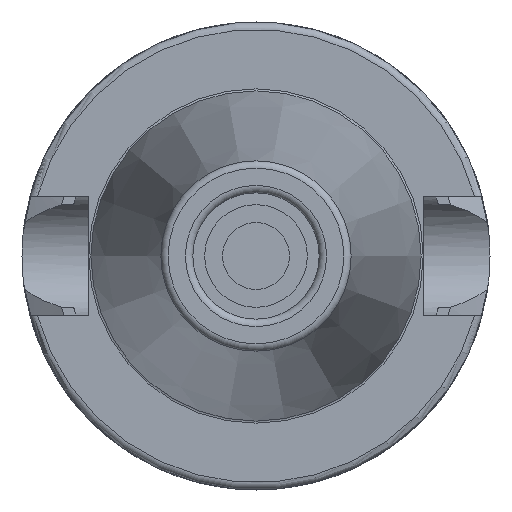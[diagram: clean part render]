
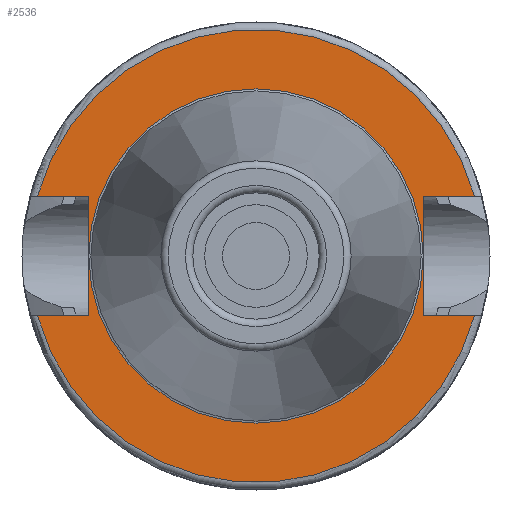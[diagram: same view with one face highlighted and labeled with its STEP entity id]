
A CAD part, left-side view. The second image highlights one B-rep face of the part: STEP entity #2536.
In plain terms, the highlighted planar face has unit normal (-1, 0, 0).
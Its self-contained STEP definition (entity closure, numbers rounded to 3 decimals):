
#128=FACE_BOUND('',#770,.T.);
#152=PLANE('',#2915);
#221=LINE('',#4158,#390);
#225=LINE('',#4208,#394);
#230=LINE('',#4220,#399);
#239=LINE('',#4325,#408);
#240=LINE('',#4327,#409);
#241=LINE('',#4328,#410);
#390=VECTOR('',#3305,10.);
#394=VECTOR('',#3315,10.);
#399=VECTOR('',#3322,10.);
#408=VECTOR('',#3389,10.);
#409=VECTOR('',#3390,10.);
#410=VECTOR('',#3391,10.);
#620=FACE_OUTER_BOUND('',#769,.T.);
#769=EDGE_LOOP('',(#1923,#1924,#1925,#1926,#1927,#1928,#1929,#1930));
#770=EDGE_LOOP('',(#1931,#1932));
#951=CIRCLE('',#2912,30.5);
#952=CIRCLE('',#2914,30.5);
#953=CIRCLE('',#2916,22.5);
#954=CIRCLE('',#2917,22.5);
#1112=VERTEX_POINT('',#4133);
#1118=VERTEX_POINT('',#4156);
#1125=VERTEX_POINT('',#4195);
#1127=VERTEX_POINT('',#4207);
#1145=VERTEX_POINT('',#4298);
#1146=VERTEX_POINT('',#4311);
#1147=VERTEX_POINT('',#4324);
#1148=VERTEX_POINT('',#4326);
#1149=VERTEX_POINT('',#4329);
#1150=VERTEX_POINT('',#4330);
#1398=EDGE_CURVE('',#1112,#1118,#221,.T.);
#1408=EDGE_CURVE('',#1127,#1125,#225,.T.);
#1414=EDGE_CURVE('',#1118,#1127,#230,.T.);
#1442=EDGE_CURVE('',#1145,#1125,#951,.T.);
#1443=EDGE_CURVE('',#1112,#1146,#952,.T.);
#1445=EDGE_CURVE('',#1145,#1147,#239,.T.);
#1446=EDGE_CURVE('',#1147,#1148,#240,.T.);
#1447=EDGE_CURVE('',#1148,#1146,#241,.T.);
#1448=EDGE_CURVE('',#1149,#1150,#953,.T.);
#1449=EDGE_CURVE('',#1150,#1149,#954,.T.);
#1923=ORIENTED_EDGE('',*,*,#1398,.T.);
#1924=ORIENTED_EDGE('',*,*,#1414,.T.);
#1925=ORIENTED_EDGE('',*,*,#1408,.T.);
#1926=ORIENTED_EDGE('',*,*,#1442,.F.);
#1927=ORIENTED_EDGE('',*,*,#1445,.T.);
#1928=ORIENTED_EDGE('',*,*,#1446,.T.);
#1929=ORIENTED_EDGE('',*,*,#1447,.T.);
#1930=ORIENTED_EDGE('',*,*,#1443,.F.);
#1931=ORIENTED_EDGE('',*,*,#1448,.T.);
#1932=ORIENTED_EDGE('',*,*,#1449,.T.);
#2536=ADVANCED_FACE('',(#620,#128),#152,.T.);
#2912=AXIS2_PLACEMENT_3D('',#4309,#3381,#3382);
#2914=AXIS2_PLACEMENT_3D('',#4312,#3385,#3386);
#2915=AXIS2_PLACEMENT_3D('',#4323,#3387,#3388);
#2916=AXIS2_PLACEMENT_3D('',#4331,#3392,#3393);
#2917=AXIS2_PLACEMENT_3D('',#4332,#3394,#3395);
#3305=DIRECTION('',(0.,1.,0.));
#3315=DIRECTION('',(0.,-1.,0.));
#3322=DIRECTION('',(0.,0.,1.));
#3381=DIRECTION('center_axis',(1.,0.,0.));
#3382=DIRECTION('ref_axis',(0.,0.,-1.));
#3385=DIRECTION('center_axis',(1.,0.,0.));
#3386=DIRECTION('ref_axis',(0.,0.,-1.));
#3387=DIRECTION('center_axis',(-1.,0.,0.));
#3388=DIRECTION('ref_axis',(0.,0.,1.));
#3389=DIRECTION('',(0.,-1.,0.));
#3390=DIRECTION('',(0.,0.,-1.));
#3391=DIRECTION('',(0.,1.,0.));
#3392=DIRECTION('center_axis',(1.,0.,0.));
#3393=DIRECTION('ref_axis',(0.,0.,-1.));
#3394=DIRECTION('center_axis',(1.,0.,0.));
#3395=DIRECTION('ref_axis',(0.,0.,-1.));
#4133=CARTESIAN_POINT('',(2.,-29.418,-8.05));
#4156=CARTESIAN_POINT('',(2.,-22.6,-8.05));
#4158=CARTESIAN_POINT('',(2.,3.95,-8.05));
#4195=CARTESIAN_POINT('',(2.,-29.418,8.05));
#4207=CARTESIAN_POINT('',(2.,-22.6,8.05));
#4208=CARTESIAN_POINT('',(2.,3.95,8.05));
#4220=CARTESIAN_POINT('',(2.,-22.6,0.));
#4298=CARTESIAN_POINT('',(2.,29.418,8.05));
#4309=CARTESIAN_POINT('Origin',(2.,0.,0.));
#4311=CARTESIAN_POINT('',(2.,29.418,-8.05));
#4312=CARTESIAN_POINT('Origin',(2.,0.,0.));
#4323=CARTESIAN_POINT('Origin',(2.,30.5,0.));
#4324=CARTESIAN_POINT('',(2.,22.6,8.05));
#4325=CARTESIAN_POINT('',(2.,26.55,8.05));
#4326=CARTESIAN_POINT('',(2.,22.6,-8.05));
#4327=CARTESIAN_POINT('',(2.,22.6,0.));
#4328=CARTESIAN_POINT('',(2.,26.55,-8.05));
#4329=CARTESIAN_POINT('',(2.,22.5,0.));
#4330=CARTESIAN_POINT('',(2.,0.,22.5));
#4331=CARTESIAN_POINT('Origin',(2.,0.,0.));
#4332=CARTESIAN_POINT('Origin',(2.,0.,0.));
